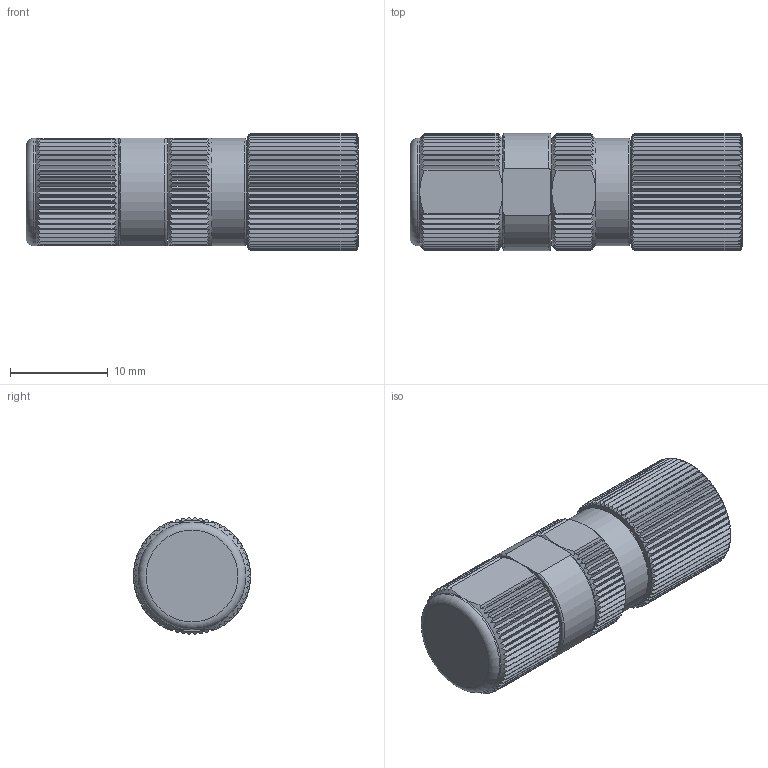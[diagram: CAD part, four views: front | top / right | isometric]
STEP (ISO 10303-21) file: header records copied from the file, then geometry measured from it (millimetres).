
FILE_DESCRIPTION( ( 'STEP AP203' ), '1' );
FILE_NAME( '//expscmdclustefs.cadenas.external/client_exchange/iodir/jobs/output/wkb80971048_no0/STEP/E11552_2_03.stp', ' ', ( ' ' ), ( ' ' ), 'PSStep 15.0.47', 'PARTsolutions', ' ' );
FILE_SCHEMA( ( 'CONFIG_CONTROL_DESIGN' ) );
Length unit declared in the file: millimetre
Products named in the file (1): _E11552
Bounding box: 33.95 x 12 x 11.99 mm (x, y, z)
Volume: 3489.5 mm3; surface area: 2101.9 mm2
Topology: 1 solids, 1 shells, 500 faces, 1450 edges, 959 vertices
Faces by surface type: plane 321, cylinder 158, cone 11, torus 10
Full cylindrical faces by diameter (mm): 5.75 x2, 6.7 x1, 6.917 x2, 10.3 x1, 11 x2
Entity records: 17342 total; most frequent: CARTESIAN_POINT 5123, ORIENTED_EDGE 2864, DIRECTION 2136, EDGE_CURVE 1432, VERTEX_POINT 958, AXIS2_PLACEMENT_3D 835, B_SPLINE_CURVE_WITH_KNOTS 632, EDGE_LOOP 524
